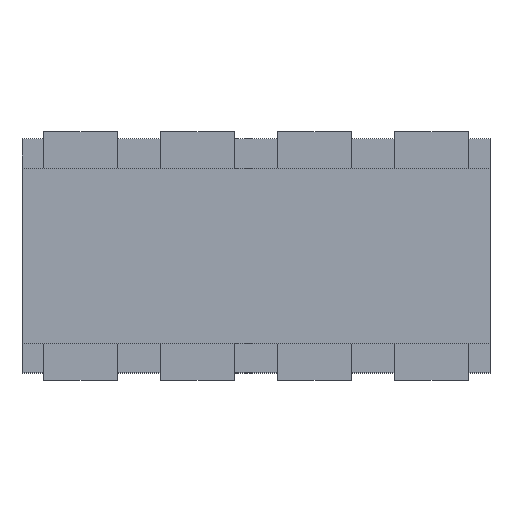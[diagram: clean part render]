
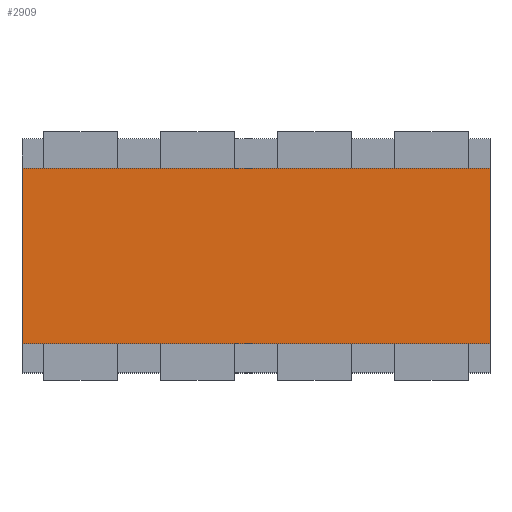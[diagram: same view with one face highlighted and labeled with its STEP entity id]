
A CAD part, top view. The second image highlights one B-rep face of the part: STEP entity #2909.
In plain terms, the highlighted planar face has unit normal (0, 0, 1).
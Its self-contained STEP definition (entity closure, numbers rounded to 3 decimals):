
#2784 = CARTESIAN_POINT ( 'NONE',  ( 1.6, 0.6, 0.7 ) ) ;
#2785 = VERTEX_POINT ( 'NONE', #2784 ) ;
#2792 = CARTESIAN_POINT ( 'NONE',  ( 1.6, -0.6, 0.7 ) ) ;
#2793 = VERTEX_POINT ( 'NONE', #2792 ) ;
#2794 = CARTESIAN_POINT ( 'NONE',  ( 1.6, -0.6, 0.7 ) ) ;
#2795 = DIRECTION ( 'NONE',  ( 0., 1., 0. ) ) ;
#2796 = VECTOR ( 'NONE', #2795, 1000. ) ;
#2797 = LINE ( 'NONE', #2794, #2796 ) ;
#2798 = EDGE_CURVE ( 'NONE', #2793, #2785, #2797, .T. ) ;
#2822 = CARTESIAN_POINT ( 'NONE',  ( -1.6, 0.6, 0.7 ) ) ;
#2823 = VERTEX_POINT ( 'NONE', #2822 ) ;
#2830 = CARTESIAN_POINT ( 'NONE',  ( -1.6, 0.6, 0.7 ) ) ;
#2831 = DIRECTION ( 'NONE',  ( -1., 0., 0. ) ) ;
#2832 = VECTOR ( 'NONE', #2831, 1000. ) ;
#2833 = LINE ( 'NONE', #2830, #2832 ) ;
#2834 = EDGE_CURVE ( 'NONE', #2785, #2823, #2833, .T. ) ;
#2853 = CARTESIAN_POINT ( 'NONE',  ( -1.6, -0.6, 0.7 ) ) ;
#2854 = VERTEX_POINT ( 'NONE', #2853 ) ;
#2861 = CARTESIAN_POINT ( 'NONE',  ( -1.6, -0.6, 0.7 ) ) ;
#2862 = DIRECTION ( 'NONE',  ( 0., -1., 0. ) ) ;
#2863 = VECTOR ( 'NONE', #2862, 1000. ) ;
#2864 = LINE ( 'NONE', #2861, #2863 ) ;
#2865 = EDGE_CURVE ( 'NONE', #2823, #2854, #2864, .T. ) ;
#2883 = CARTESIAN_POINT ( 'NONE',  ( -1.6, -0.6, 0.7 ) ) ;
#2884 = DIRECTION ( 'NONE',  ( 1., 0., 0. ) ) ;
#2885 = VECTOR ( 'NONE', #2884, 1000. ) ;
#2886 = LINE ( 'NONE', #2883, #2885 ) ;
#2887 = EDGE_CURVE ( 'NONE', #2854, #2793, #2886, .T. ) ;
#2898 = ORIENTED_EDGE ( 'NONE', *, *, #2798, .T. ) ;
#2899 = ORIENTED_EDGE ( 'NONE', *, *, #2834, .T. ) ;
#2900 = ORIENTED_EDGE ( 'NONE', *, *, #2865, .T. ) ;
#2901 = ORIENTED_EDGE ( 'NONE', *, *, #2887, .T. ) ;
#2902 = EDGE_LOOP ( 'NONE', ( #2898, #2899, #2900, #2901 ) ) ;
#2903 = FACE_OUTER_BOUND ( 'NONE', #2902, .T. ) ;
#2904 = CARTESIAN_POINT ( 'NONE',  ( 0., 0., 0.7 ) ) ;
#2905 = DIRECTION ( 'NONE',  ( 0., 0., -1. ) ) ;
#2906 = DIRECTION ( 'NONE',  ( 0., 1., 0. ) ) ;
#2907 = AXIS2_PLACEMENT_3D ( 'NONE', #2904, #2905, #2906 ) ;
#2908 = PLANE ( 'NONE', #2907 ) ;
#2909 = ADVANCED_FACE ( 'NONE', ( #2903 ), #2908, .F. ) ;
